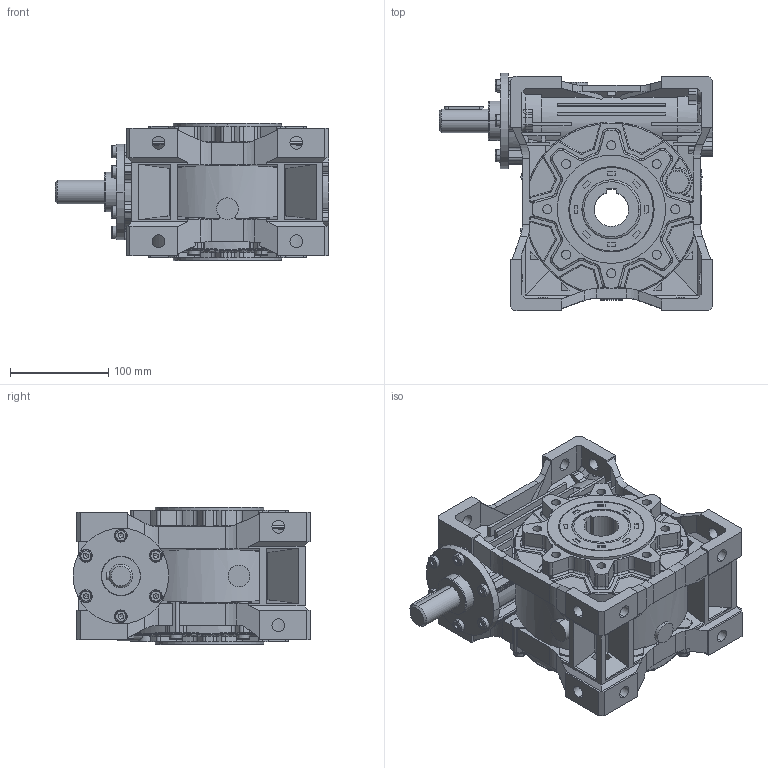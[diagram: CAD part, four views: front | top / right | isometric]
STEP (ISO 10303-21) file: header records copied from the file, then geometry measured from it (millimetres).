
FILE_DESCRIPTION (( 'STEP AP203' ), '1' );
FILE_NAME ('S 90.step', '2025-07-02T14:09:27', ( '' ), ( '' ), 'SwSTEP 2.0', 'SolidWorks 2024', '' );
FILE_SCHEMA (( 'CONFIG_CONTROL_DESIGN' ));
Length unit declared in the file: millimetre
Products named in the file (3): S 90; Motorsuz Giriş Mili_S90; Gövde_S90
Assembly tree (2 placements, depth 2):
  S 90
    Gövde_S90
    Motorsuz Giriş Mili_S90
Bounding box: 278 x 241.5 x 140 mm (x, y, z)
Volume: 4355877.4 mm3; surface area: 394804.9 mm2
Topology: 2 solids, 2 shells, 1851 faces, 4867 edges, 3059 vertices
Faces by surface type: plane 762, cylinder 661, bspline 349, cone 67, torus 12
Entity records: 65492 total; most frequent: CARTESIAN_POINT 21761, ORIENTED_EDGE 9632, DIRECTION 8507, EDGE_CURVE 4816, VERTEX_POINT 3059, AXIS2_PLACEMENT_3D 2998, VECTOR 2511, LINE 2511
